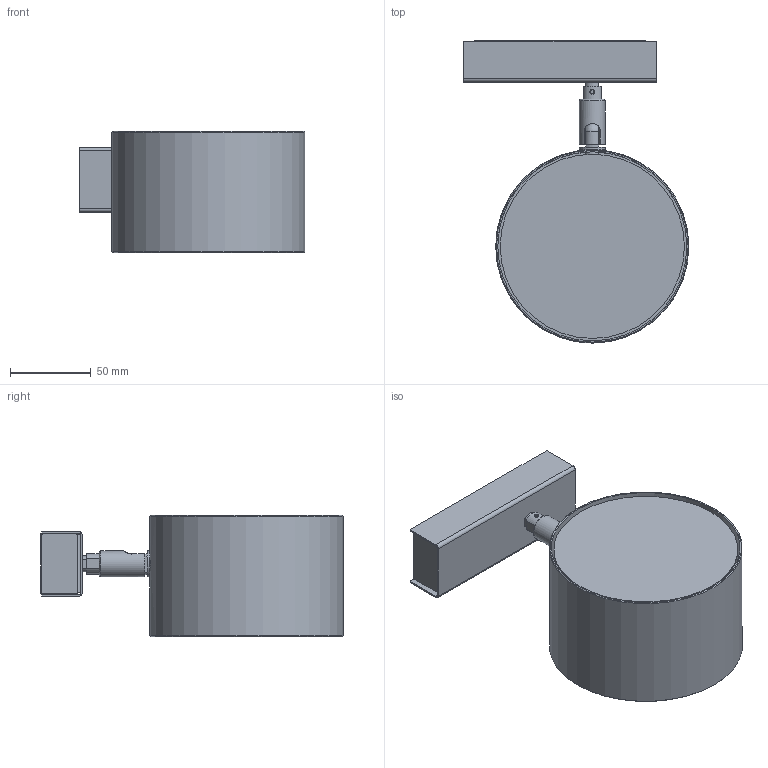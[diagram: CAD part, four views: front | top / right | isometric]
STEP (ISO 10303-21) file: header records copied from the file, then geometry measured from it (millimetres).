
FILE_DESCRIPTION(/* description */ (''),/* implementation_level */ '2;1');
FILE_NAME(/* name */ 'SPOT ENDLESS.stp',/* time_stamp */ '2023-02-17T10:06:16+01:00',/* author */ ('n.bisotti'),/* organization */ (''),/* preprocessor_version */ 'ST-DEVELOPER v19.2',/* originating_system */ 'Autodesk Inventor 2023',/* authorisation */ '');
FILE_SCHEMA (('AUTOMOTIVE_DESIGN { 1 0 10303 214 3 1 1 }'));
Length unit declared in the file: millimetre
Products named in the file (1): Parte1
Bounding box: 139.8 x 187 x 75 mm (x, y, z)
Volume: 226685.9 mm3; surface area: 143530.1 mm2
Topology: 11 solids, 11 shells, 224 faces, 518 edges, 324 vertices
Faces by surface type: plane 124, cylinder 84, cone 13, sphere 2, torus 1
Full cylindrical faces by diameter (mm): 2.459 x3, 3 x1, 5.9 x1, 6.8 x1, 8.917 x1, 9 x1, 10 x1, 13.5 x1, 16 x2, 102.5 x1, 107 x1, 109 x1, 111.5 x1, 112.5 x1, 114 x1, 117 x1, 119.6 x1
Entity records: 6793 total; most frequent: CARTESIAN_POINT 1249, DIRECTION 1125, ORIENTED_EDGE 1030, EDGE_CURVE 515, AXIS2_PLACEMENT_3D 412, VERTEX_POINT 324, LINE 301, VECTOR 301
